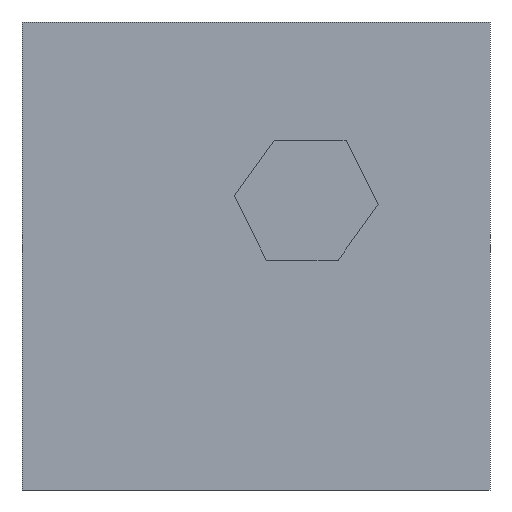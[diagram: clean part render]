
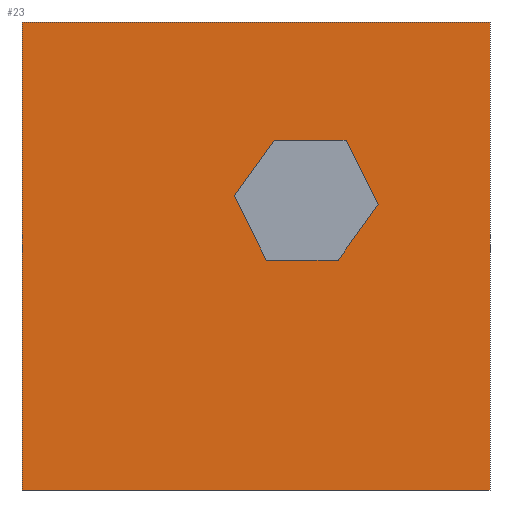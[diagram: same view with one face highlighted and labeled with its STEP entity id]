
A CAD part, front view. The second image highlights one B-rep face of the part: STEP entity #23.
In plain terms, the highlighted planar face has unit normal (0, -1, 0).
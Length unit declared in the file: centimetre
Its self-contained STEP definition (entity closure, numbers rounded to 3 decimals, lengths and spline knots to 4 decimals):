
#6 = CARTESIAN_POINT ( 'NONE',  ( 538.9239, 0., 747.4453 ) ) ;
#8 = LINE ( 'NONE', #551, #446 ) ;
#23 = ADVANCED_FACE ( 'NONE', ( #65, #288 ), #331, .F. ) ;
#30 = EDGE_CURVE ( 'NONE', #39, #617, #8, .T. ) ;
#39 = VERTEX_POINT ( 'NONE', #173 ) ;
#64 = CARTESIAN_POINT ( 'NONE',  ( 760.7688, 0., 609.7489 ) ) ;
#65 = FACE_BOUND ( 'NONE', #291, .T. ) ;
#70 = VERTEX_POINT ( 'NONE', #591 ) ;
#74 = VECTOR ( 'NONE', #203, 100. ) ;
#77 = VERTEX_POINT ( 'NONE', #412 ) ;
#88 = DIRECTION ( 'NONE',  ( 0.445, 0., -0.896 ) ) ;
#125 = VERTEX_POINT ( 'NONE', #164 ) ;
#130 = CARTESIAN_POINT ( 'NONE',  ( 522.2716, 0., 491.2809 ) ) ;
#135 = CARTESIAN_POINT ( 'NONE',  ( 1000., 0., 0. ) ) ;
#141 = CARTESIAN_POINT ( 'NONE',  ( 760.7688, 0., 609.7489 ) ) ;
#154 = VECTOR ( 'NONE', #521, 100. ) ;
#164 = CARTESIAN_POINT ( 'NONE',  ( 692.3713, 0., 747.4453 ) ) ;
#168 = VERTEX_POINT ( 'NONE', #311 ) ;
#169 = DIRECTION ( 'NONE',  ( 0., 0., 1. ) ) ;
#173 = CARTESIAN_POINT ( 'NONE',  ( 0., 0., 0. ) ) ;
#174 = VERTEX_POINT ( 'NONE', #6 ) ;
#178 = EDGE_CURVE ( 'NONE', #174, #168, #264, .T. ) ;
#179 = CARTESIAN_POINT ( 'NONE',  ( 0., 0., 1000. ) ) ;
#193 = DIRECTION ( 'NONE',  ( 1., 0., 0. ) ) ;
#196 = ORIENTED_EDGE ( 'NONE', *, *, #676, .F. ) ;
#197 = DIRECTION ( 'NONE',  ( 1., 0., 0. ) ) ;
#203 = DIRECTION ( 'NONE',  ( 0., 0., -1. ) ) ;
#207 = LINE ( 'NONE', #567, #667 ) ;
#210 = CARTESIAN_POINT ( 'NONE',  ( 675.719, 0., 491.2809 ) ) ;
#213 = CARTESIAN_POINT ( 'NONE',  ( 453.8741, 0., 628.9774 ) ) ;
#230 = VERTEX_POINT ( 'NONE', #64 ) ;
#257 = DIRECTION ( 'NONE',  ( 0.583, 0., 0.812 ) ) ;
#264 = LINE ( 'NONE', #631, #154 ) ;
#272 = CARTESIAN_POINT ( 'NONE',  ( 692.3713, 0., 747.4453 ) ) ;
#288 = FACE_OUTER_BOUND ( 'NONE', #511, .T. ) ;
#290 = DIRECTION ( 'NONE',  ( 1., 0., 0. ) ) ;
#291 = EDGE_LOOP ( 'NONE', ( #519, #477, #612, #555, #294, #296 ) ) ;
#294 = ORIENTED_EDGE ( 'NONE', *, *, #479, .F. ) ;
#296 = ORIENTED_EDGE ( 'NONE', *, *, #178, .F. ) ;
#300 = LINE ( 'NONE', #130, #626 ) ;
#302 = CARTESIAN_POINT ( 'NONE',  ( 0., 0., 1000. ) ) ;
#311 = CARTESIAN_POINT ( 'NONE',  ( 453.8741, 0., 628.9774 ) ) ;
#326 = VECTOR ( 'NONE', #197, 100. ) ;
#331 = PLANE ( 'NONE',  #666 ) ;
#336 = EDGE_CURVE ( 'NONE', #125, #174, #698, .T. ) ;
#338 = ORIENTED_EDGE ( 'NONE', *, *, #30, .T. ) ;
#362 = CARTESIAN_POINT ( 'NONE',  ( 675.719, 0., 491.2809 ) ) ;
#376 = EDGE_CURVE ( 'NONE', #688, #230, #577, .T. ) ;
#388 = DIRECTION ( 'NONE',  ( 0., 1., 0. ) ) ;
#394 = VERTEX_POINT ( 'NONE', #471 ) ;
#412 = CARTESIAN_POINT ( 'NONE',  ( 522.2716, 0., 491.2809 ) ) ;
#427 = EDGE_CURVE ( 'NONE', #230, #125, #627, .T. ) ;
#446 = VECTOR ( 'NONE', #290, 100. ) ;
#456 = LINE ( 'NONE', #302, #326 ) ;
#458 = LINE ( 'NONE', #475, #74 ) ;
#460 = ORIENTED_EDGE ( 'NONE', *, *, #542, .F. ) ;
#471 = CARTESIAN_POINT ( 'NONE',  ( 0., 0., 1000. ) ) ;
#474 = DIRECTION ( 'NONE',  ( 0., 0., -1. ) ) ;
#475 = CARTESIAN_POINT ( 'NONE',  ( 1000., 0., 1000. ) ) ;
#477 = ORIENTED_EDGE ( 'NONE', *, *, #427, .F. ) ;
#479 = EDGE_CURVE ( 'NONE', #168, #77, #691, .T. ) ;
#480 = VECTOR ( 'NONE', #88, 100. ) ;
#505 = EDGE_CURVE ( 'NONE', #394, #39, #207, .T. ) ;
#511 = EDGE_LOOP ( 'NONE', ( #338, #196, #460, #543 ) ) ;
#512 = DIRECTION ( 'NONE',  ( -0.445, 0., 0.896 ) ) ;
#519 = ORIENTED_EDGE ( 'NONE', *, *, #336, .F. ) ;
#521 = DIRECTION ( 'NONE',  ( -0.583, 0., -0.812 ) ) ;
#527 = EDGE_CURVE ( 'NONE', #77, #688, #300, .T. ) ;
#537 = VECTOR ( 'NONE', #512, 100. ) ;
#542 = EDGE_CURVE ( 'NONE', #394, #70, #456, .T. ) ;
#543 = ORIENTED_EDGE ( 'NONE', *, *, #505, .T. ) ;
#551 = CARTESIAN_POINT ( 'NONE',  ( 0., 0., 0. ) ) ;
#555 = ORIENTED_EDGE ( 'NONE', *, *, #527, .F. ) ;
#565 = VECTOR ( 'NONE', #257, 100. ) ;
#567 = CARTESIAN_POINT ( 'NONE',  ( 0., 0., 1000. ) ) ;
#577 = LINE ( 'NONE', #210, #565 ) ;
#589 = DIRECTION ( 'NONE',  ( -1., 0., 0. ) ) ;
#591 = CARTESIAN_POINT ( 'NONE',  ( 1000., 0., 1000. ) ) ;
#612 = ORIENTED_EDGE ( 'NONE', *, *, #376, .F. ) ;
#617 = VERTEX_POINT ( 'NONE', #135 ) ;
#626 = VECTOR ( 'NONE', #193, 100. ) ;
#627 = LINE ( 'NONE', #141, #537 ) ;
#631 = CARTESIAN_POINT ( 'NONE',  ( 538.9239, 0., 747.4453 ) ) ;
#666 = AXIS2_PLACEMENT_3D ( 'NONE', #179, #388, #169 ) ;
#667 = VECTOR ( 'NONE', #474, 100. ) ;
#676 = EDGE_CURVE ( 'NONE', #70, #617, #458, .T. ) ;
#688 = VERTEX_POINT ( 'NONE', #362 ) ;
#691 = LINE ( 'NONE', #213, #480 ) ;
#698 = LINE ( 'NONE', #272, #700 ) ;
#700 = VECTOR ( 'NONE', #589, 100. ) ;
